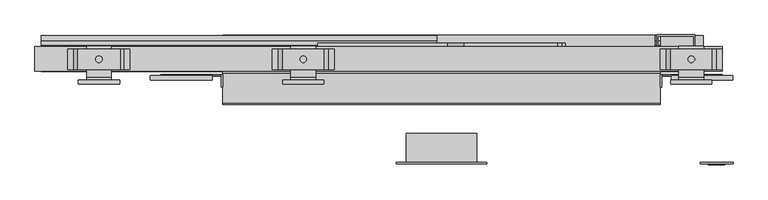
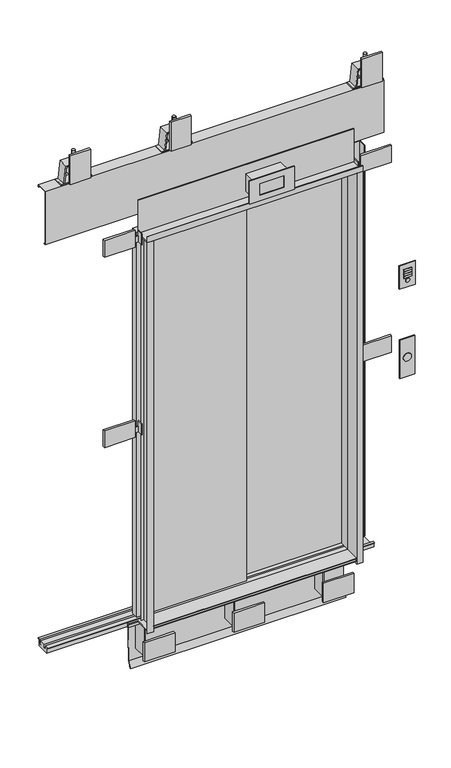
"""IFC4 building model written with IfcOpenShell, lengths in millimetres: proxy geometry, SHLZ_Дверь_0621Е_0411 : SHLZ_Дверь_0621Е_0411."""

from ifc_helpers import new_model, si_unit, point, frame, frame_2d, origin, origin_with_axes, place, context, project, spatial, polyline, circle_curve, trimmed, segment, composite_curve, outline, extrude, faceted_brep, source, transform, mapped, element, save
from ifc_brep_helpers import plane_surface, cylinder_surface, advanced_brep


def generic_models_df95d3e8(model_context):
    return source(origin(), model_context, "Body", "SolidModel", [
        extrude(outline(polyline([(-515.0, 20.0), (-500.0, 20.0), (-500.0, -60.0), (-530.0, -60.0), (-530.0, -57.0), (-503.0, -57.0), (-503.0, 17.0), (-515.0, 17.0), (-515.0, 20.0)])), frame((0.0, 0.0, -30.0), z_axis=(0.0, 0.0, 1.0), x_axis=(1.0, 0.0, 0.0)), (0.0, 0.0, 1.0), 2030.0),
        extrude(outline(polyline([(-57.0, 2030.0), (-57.0, 2003.0), (17.0, 2003.0), (17.0, 2175.0), (20.0, 2175.0), (20.0, 2000.0), (-60.0, 2000.0), (-60.0, 2030.0), (-57.0, 2030.0)])), frame((-530.0, 0.0, 0.0), z_axis=(1.0, 0.0, 0.0), x_axis=(0.0, 1.0, 0.0)), (0.0, 0.0, 1.0), 1060.0),
        extrude(outline(polyline([(706.3, -200.0), (706.3, -204.0), (626.3, -204.0), (626.3, -200.0), (706.3, -200.0)])), frame((0.0, 0.0, 1440.0), z_axis=(0.0, 0.0, 1.0), x_axis=(1.0, 0.0, 0.0)), (0.0, 0.0, 1.0), 120.0),
        extrude(outline(composite_curve([segment(trimmed(circle_curve(frame_2d((1476.0113201, 666.3)), 10.0), [point((1476.0113201, 676.3))], [point((1476.0113201, 656.3))], False, "CARTESIAN"), True, "CONTINUOUS"), segment(trimmed(circle_curve(frame_2d((1476.0113201, 666.3)), 10.0), [point((1476.0113201, 656.3))], [point((1476.0113201, 676.3))], False, "CARTESIAN"), True, "CONTINUOUS")], self_intersect=False)), frame((0.0, -206.0, 0.0), z_axis=(0.0, 1.0, 0.0), x_axis=(0.0, 0.0, 1.0)), (0.0, 0.0, 1.0), 2.0),
        extrude(outline(polyline([(686.3, -206.0), (646.3, -206.0), (646.3, -204.0), (686.3, -204.0), (686.3, -206.0)])), frame((0.0, 0.0, 1502.3637345), z_axis=(0.0, 0.0, 1.0), x_axis=(1.0, 0.0, 0.0)), (0.0, 0.0, 1.0), 10.0),
        extrude(outline(polyline([(686.3, -206.0), (646.3, -206.0), (646.3, -204.0), (686.3, -204.0), (686.3, -206.0)])), frame((0.0, 0.0, 1490.6113201), z_axis=(0.0, 0.0, 1.0), x_axis=(1.0, 0.0, 0.0)), (0.0, 0.0, 1.0), 10.0),
        extrude(outline(polyline([(686.3, -206.0), (646.3, -206.0), (646.3, -204.0), (686.3, -204.0), (686.3, -206.0)])), frame((0.0, 0.0, 1514.1161488), z_axis=(0.0, 0.0, 1.0), x_axis=(1.0, 0.0, 0.0)), (0.0, 0.0, 1.0), 10.0),
        extrude(outline(polyline([(686.3, -206.0), (646.3, -206.0), (646.3, -204.0), (686.3, -204.0), (686.3, -206.0)])), frame((0.0, 0.0, 1525.8685632), z_axis=(0.0, 0.0, 1.0), x_axis=(1.0, 0.0, 0.0)), (0.0, 0.0, 1.0), 10.0),
        extrude(outline(polyline([(703.5601691, -202.0), (629.0398309, -202.0), (629.0398309, -200.0), (703.5601691, -200.0), (703.5601691, -202.0)])), frame((0.0, 0.0, 975.0), z_axis=(0.0, 0.0, 1.0), x_axis=(1.0, 0.0, 0.0)), (0.0, 0.0, 1.0), 200.0),
        extrude(outline(composite_curve([segment(trimmed(circle_curve(frame_2d((1075.0, 666.3)), 20.0), [point((1075.0, 646.3))], [point((1075.0, 686.3))], False, "CARTESIAN"), True, "CONTINUOUS"), segment(trimmed(circle_curve(frame_2d((1075.0, 666.3)), 20.0), [point((1075.0, 686.3))], [point((1075.0, 646.3))], False, "CARTESIAN"), True, "CONTINUOUS")], self_intersect=False)), frame((0.0, -204.0226285, 0.0), z_axis=(0.0, 1.0, 0.0), x_axis=(0.0, 0.0, 1.0)), (0.0, 0.0, 1.0), 2.0226285),
        extrude(outline(polyline([(-706.0, 10.0), (-556.0, 10.0), (-556.0, 0.0), (-706.0, 0.0), (-706.0, 10.0)])), frame((0.0, 0.0, 1949.5), z_axis=(0.0, 0.0, 1.0), x_axis=(1.0, 0.0, 0.0)), (0.0, 0.0, 1.0), 87.0),
        faceted_brep([(-530.0, -17.0, 2021.5), (-533.0, -17.0, 2021.5), (-533.0, -17.0, 1964.5), (-530.0, -17.0, 1964.5), (-680.0, 13.0, 2021.5), (-560.0, 13.0, 2021.5), (-560.0, 13.0, 1994.5), (-533.0, 13.0, 1994.5), (-533.0, 13.0, 2021.5), (-530.0, 13.0, 2021.5), (-530.0, 13.0, 1964.5), (-680.0, 13.0, 1964.5), (-680.0, 10.0, 2021.5), (-560.0, 10.0, 2021.5), (-533.0, 10.0, 1964.5), (-680.0, 10.0, 1964.5), (-533.0, 10.0, 1994.5), (-560.0, 10.0, 1994.5)], [[[0, 1, 2, 3]], [[4, 5, 6, 7, 8, 9, 10, 11]], [[9, 8, 1, 0]], [[12, 13, 5, 4]], [[3, 10, 9, 0]], [[10, 3, 2, 14, 15, 11]], [[11, 15, 12, 4]], [[14, 16, 17, 13, 12, 15]], [[1, 8, 7, 16, 14, 2]], [[7, 6, 17, 16]], [[6, 5, 13, 17]]]),
        extrude(outline(polyline([(706.0, 10.0), (706.0, 0.0), (556.0, 0.0), (556.0, 10.0), (706.0, 10.0)])), frame((0.0, 0.0, 1949.5), z_axis=(0.0, 0.0, 1.0), x_axis=(1.0, 0.0, 0.0)), (0.0, 0.0, 1.0), 87.0),
        faceted_brep([(530.0, -17.0, 2021.5), (530.0, -17.0, 1964.5), (533.0, -17.0, 1964.5), (533.0, -17.0, 2021.5), (680.0, 13.0, 2021.5), (680.0, 13.0, 1964.5), (530.0, 13.0, 1964.5), (530.0, 13.0, 2021.5), (533.0, 13.0, 2021.5), (533.0, 13.0, 1994.5), (560.0, 13.0, 1994.5), (560.0, 13.0, 2021.5), (680.0, 10.0, 2021.5), (560.0, 10.0, 2021.5), (680.0, 10.0, 1964.5), (533.0, 10.0, 1964.5), (560.0, 10.0, 1994.5), (533.0, 10.0, 1994.5)], [[[0, 1, 2, 3]], [[4, 5, 6, 7, 8, 9, 10, 11]], [[12, 4, 11, 13]], [[7, 0, 3, 8]], [[1, 0, 7, 6]], [[6, 5, 14, 15, 2, 1]], [[5, 4, 12, 14]], [[15, 14, 12, 13, 16, 17]], [[3, 2, 15, 17, 9, 8]], [[9, 17, 16, 10]], [[10, 16, 13, 11]]]),
        extrude(outline(polyline([(-706.0, 10.0), (-556.0, 10.0), (-556.0, 0.0), (-706.0, 0.0), (-706.0, 10.0)])), frame((0.0, 0.0, 961.5), z_axis=(0.0, 0.0, 1.0), x_axis=(1.0, 0.0, 0.0)), (0.0, 0.0, 1.0), 87.0),
        faceted_brep([(-530.0, -17.0, 1033.5), (-533.0, -17.0, 1033.5), (-533.0, -17.0, 976.5), (-530.0, -17.0, 976.5), (-680.0, 13.0, 1033.5), (-560.0, 13.0, 1033.5), (-560.0, 13.0, 1006.5), (-533.0, 13.0, 1006.5), (-533.0, 13.0, 1033.5), (-530.0, 13.0, 1033.5), (-530.0, 13.0, 976.5), (-680.0, 13.0, 976.5), (-680.0, 10.0, 1033.5), (-560.0, 10.0, 1033.5), (-533.0, 10.0, 976.5), (-680.0, 10.0, 976.5), (-533.0, 10.0, 1006.5), (-560.0, 10.0, 1006.5)], [[[0, 1, 2, 3]], [[4, 5, 6, 7, 8, 9, 10, 11]], [[9, 8, 1, 0]], [[12, 13, 5, 4]], [[3, 10, 9, 0]], [[10, 3, 2, 14, 15, 11]], [[11, 15, 12, 4]], [[14, 16, 17, 13, 12, 15]], [[1, 8, 7, 16, 14, 2]], [[7, 6, 17, 16]], [[6, 5, 13, 17]]]),
        extrude(outline(polyline([(706.0, 10.0), (706.0, 0.0), (556.0, 0.0), (556.0, 10.0), (706.0, 10.0)])), frame((0.0, 0.0, 961.5), z_axis=(0.0, 0.0, 1.0), x_axis=(1.0, 0.0, 0.0)), (0.0, 0.0, 1.0), 87.0),
        faceted_brep([(530.0, -17.0, 1033.5), (530.0, -17.0, 976.5), (533.0, -17.0, 976.5), (533.0, -17.0, 1033.5), (680.0, 13.0, 1033.5), (680.0, 13.0, 976.5), (530.0, 13.0, 976.5), (530.0, 13.0, 1033.5), (533.0, 13.0, 1033.5), (533.0, 13.0, 1006.5), (560.0, 13.0, 1006.5), (560.0, 13.0, 1033.5), (680.0, 10.0, 1033.5), (560.0, 10.0, 1033.5), (680.0, 10.0, 976.5), (533.0, 10.0, 976.5), (560.0, 10.0, 1006.5), (533.0, 10.0, 1006.5)], [[[0, 1, 2, 3]], [[4, 5, 6, 7, 8, 9, 10, 11]], [[12, 4, 11, 13]], [[7, 0, 3, 8]], [[1, 0, 7, 6]], [[6, 5, 14, 15, 2, 1]], [[5, 4, 12, 14]], [[15, 14, 12, 13, 16, 17]], [[3, 2, 15, 17, 9, 8]], [[9, 17, 16, 10]], [[10, 16, 13, 11]]]),
        extrude(outline(polyline([(82.0, 2410.0), (0.0, 2410.0), (0.0, 2530.0), (5.0, 2530.0), (5.0, 2415.0), (82.0, 2415.0), (82.0, 2410.0)])), frame((-860.0, 0.0, 0.0), z_axis=(1.0, 0.0, 0.0), x_axis=(0.0, 1.0, 0.0)), (0.0, 0.0, 1.0), 60.0),
        extrude(outline(polyline([(-780.0, 0.0), (-780.0, -10.0), (-880.0, -10.0), (-880.0, 0.0), (-780.0, 0.0)])), frame((0.0, 0.0, 2394.0), z_axis=(0.0, 0.0, 1.0), x_axis=(1.0, 0.0, 0.0)), (0.0, 0.0, 1.0), 150.0),
        extrude(outline(polyline([(-755.0, 25.0), (-905.0, 25.0), (-905.0, 75.0), (-755.0, 75.0), (-755.0, 25.0)])), frame((0.0, 0.0, 2375.0), z_axis=(0.0, 0.0, 1.0), x_axis=(1.0, 0.0, 0.0)), (0.0, 0.0, 1.0), 5.0),
        advanced_brep(
        [(-838.0, 50.0, 2410.0), (-822.0, 50.0, 2410.0), (-838.0, 50.0, 2385.0), (-822.0, 50.0, 2385.0)],
        [
            (0, 1, circle_curve(frame((-830.0, 50.0, 2410.0), z_axis=(0.0, 0.0, 1.0), x_axis=(1.0, 0.0, 0.0)), 8.0)),
            (1, 0, circle_curve(frame((-830.0, 50.0, 2410.0), z_axis=(0.0, 0.0, 1.0), x_axis=(1.0, 0.0, 0.0)), 8.0)),
            (2, 3, circle_curve(frame((-830.0, 50.0, 2385.0), z_axis=(0.0, 0.0, -1.0), x_axis=(1.0, 0.0, 0.0)), 8.0)),
            (3, 2, circle_curve(frame((-830.0, 50.0, 2385.0), z_axis=(0.0, 0.0, -1.0), x_axis=(1.0, 0.0, 0.0)), 8.0)),
            (3, 1),
            (0, 2),
        ],
        [
            plane_surface(frame((-800.0, 0.0, 2410.0), z_axis=(0.0, 0.0, 1.0), x_axis=(-1.0, 0.0, 0.0))),
            plane_surface(frame((-822.0, 50.0, 2385.0), z_axis=(0.0, 0.0, -1.0), x_axis=(0.0, -1.0, 0.0))),
            cylinder_surface(frame((-830.0, 50.0, 2385.0), z_axis=(0.0, 0.0, 1.0), x_axis=(1.0, 0.0, 0.0)), 8.0),
        ],
        [
            (0, [[1, 2]]),
            (1, [[3, 4]]),
            (2, [[-4, 5, -1, 6]]),
            (2, [[-3, -6, -2, -5]]),
        ],
    ),
        advanced_brep(
        [(-876.7, 25.0, 2465.0), (-886.0, 25.0, 2380.0), (-886.0, 75.0, 2380.0), (-876.7, 75.0, 2465.0), (-891.0, 75.0, 2380.0), (-881.1529412, 75.0, 2470.0), (-778.8470588, 75.0, 2470.0), (-769.0, 75.0, 2380.0), (-774.0, 75.0, 2380.0), (-783.3, 75.0, 2465.0), (-838.0, 50.0, 2521.0), (-822.0, 50.0, 2521.0), (-838.0, 50.0, 2470.0), (-822.0, 50.0, 2470.0), (-783.3, 25.0, 2465.0), (-774.0, 25.0, 2380.0), (-769.0, 25.0, 2380.0), (-778.8470588, 25.0, 2470.0), (-881.1529412, 25.0, 2470.0), (-891.0, 25.0, 2380.0), (-838.0, 50.0, 2465.0), (-822.0, 50.0, 2465.0), (-822.0, 50.0, 2415.0), (-838.0, 50.0, 2415.0)],
        [
            (0, 1),
            (1, 2),
            (2, 3),
            (3, 0),
            (2, 4),
            (4, 5),
            (5, 6),
            (6, 7),
            (7, 8),
            (8, 9),
            (9, 3),
            (10, 11, circle_curve(frame((-830.0, 50.0, 2521.0), z_axis=(0.0, 0.0, 1.0), x_axis=(1.0, 0.0, 0.0)), 8.0)),
            (11, 10, circle_curve(frame((-830.0, 50.0, 2521.0), z_axis=(0.0, 0.0, 1.0), x_axis=(1.0, 0.0, 0.0)), 8.0)),
            (10, 12),
            (12, 13, circle_curve(frame((-830.0, 50.0, 2470.0), z_axis=(0.0, 0.0, 1.0), x_axis=(1.0, 0.0, 0.0)), 8.0)),
            (13, 11),
            (13, 12, circle_curve(frame((-830.0, 50.0, 2470.0), z_axis=(0.0, 0.0, 1.0), x_axis=(1.0, 0.0, 0.0)), 8.0)),
            (0, 14),
            (14, 15),
            (15, 16),
            (16, 17),
            (17, 18),
            (18, 19),
            (19, 1),
            (9, 14),
            (20, 21, circle_curve(frame((-830.0, 50.0, 2465.0), z_axis=(0.0, 0.0, 1.0), x_axis=(1.0, 0.0, 0.0)), 8.0)),
            (21, 20, circle_curve(frame((-830.0, 50.0, 2465.0), z_axis=(0.0, 0.0, 1.0), x_axis=(1.0, 0.0, 0.0)), 8.0)),
            (8, 15),
            (7, 16),
            (6, 17),
            (5, 18),
            (4, 19),
            (22, 23, circle_curve(frame((-830.0, 50.0, 2415.0), z_axis=(0.0, 0.0, -1.0), x_axis=(1.0, 0.0, 0.0)), 8.0)),
            (23, 22, circle_curve(frame((-830.0, 50.0, 2415.0), z_axis=(0.0, 0.0, -1.0), x_axis=(1.0, 0.0, 0.0)), 8.0)),
            (20, 23),
            (22, 21),
        ],
        [
            plane_surface(frame((-886.0, 25.0, 2380.0), z_axis=(0.9940677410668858, 0.0, -0.10876270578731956), x_axis=(0.0, 1.0, 0.0))),
            plane_surface(frame((-876.7, 75.0, 2465.0), z_axis=(0.0, 1.0, 0.0), x_axis=(-1.0, 0.0, 0.0))),
            plane_surface(frame((-822.0, 50.0, 2521.0), z_axis=(0.0, 0.0, 1.0), x_axis=(0.0, 1.0, 0.0))),
            cylinder_surface(frame((-830.0, 50.0, 2385.0), z_axis=(0.0, 0.0, 1.0), x_axis=(1.0, 0.0, 0.0)), 8.0),
            plane_surface(frame((-876.7, 25.0, 2465.0), z_axis=(0.0, -1.0, 0.0), x_axis=(1.0, 0.0, 0.0))),
            plane_surface(frame((-876.7, 25.0, 2465.0), z_axis=(0.0, 0.0, -1.0), x_axis=(0.0, 1.0, 0.0))),
            plane_surface(frame((-783.3, 25.0, 2465.0), z_axis=(-0.9940677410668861, 0.0, -0.1087627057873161), x_axis=(0.0, 1.0, 0.0))),
            plane_surface(frame((-774.0, 25.0, 2380.0), z_axis=(0.0, 0.0, -1.0), x_axis=(0.0, 1.0, 0.0))),
            plane_surface(frame((-769.0, 25.0, 2380.0), z_axis=(0.9940677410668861, 0.0, 0.10876270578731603), x_axis=(0.0, 1.0, 0.0))),
            plane_surface(frame((-778.8470588, 25.0, 2470.0), z_axis=(0.0, 0.0, 1.0), x_axis=(0.0, 1.0, 0.0))),
            plane_surface(frame((-881.1529412, 25.0, 2470.0), z_axis=(-0.9940677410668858, 0.0, 0.10876270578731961), x_axis=(0.0, 1.0, 0.0))),
            plane_surface(frame((-891.0, 25.0, 2380.0), z_axis=(0.0, 0.0, -1.0), x_axis=(0.0, 1.0, 0.0))),
            plane_surface(frame((-800.0, 82.0, 2415.0), z_axis=(0.0, 0.0, -1.0), x_axis=(-1.0, 0.0, 0.0))),
        ],
        [
            (0, [[1, 2, 3, 4]]),
            (1, [[-3, 5, 6, 7, 8, 9, 10, 11]]),
            (2, [[12, 13]]),
            (3, [[-12, 14, 15, 16]]),
            (3, [[-13, -16, 17, -14]]),
            (4, [[18, 19, 20, 21, 22, 23, 24, -1]]),
            (5, [[-18, -4, -11, 25], [26, 27]]),
            (6, [[-19, -25, -10, 28]]),
            (7, [[-20, -28, -9, 29]]),
            (8, [[-21, -29, -8, 30]]),
            (9, [[-22, -30, -7, 31], [-15, -17]]),
            (10, [[-23, -31, -6, 32]]),
            (11, [[-24, -32, -5, -2]]),
            (12, [[33, 34]]),
            (3, [[-26, 35, -33, 36]]),
            (3, [[-27, -36, -34, -35]]),
        ],
    ),
        extrude(outline(polyline([(82.0, 2410.0), (0.0, 2410.0), (0.0, 2530.0), (5.0, 2530.0), (5.0, 2415.0), (82.0, 2415.0), (82.0, 2410.0)])), frame((-365.0, 0.0, 0.0), z_axis=(1.0, 0.0, 0.0), x_axis=(0.0, 1.0, 0.0)), (0.0, 0.0, 1.0), 60.0),
        extrude(outline(polyline([(-285.0, 0.0), (-285.0, -10.0), (-385.0, -10.0), (-385.0, 0.0), (-285.0, 0.0)])), frame((0.0, 0.0, 2394.0), z_axis=(0.0, 0.0, 1.0), x_axis=(1.0, 0.0, 0.0)), (0.0, 0.0, 1.0), 150.0),
        extrude(outline(polyline([(-260.0, 25.0), (-410.0, 25.0), (-410.0, 75.0), (-260.0, 75.0), (-260.0, 25.0)])), frame((0.0, 0.0, 2375.0), z_axis=(0.0, 0.0, 1.0), x_axis=(1.0, 0.0, 0.0)), (0.0, 0.0, 1.0), 5.0),
        advanced_brep(
        [(-343.0, 50.0, 2410.0), (-327.0, 50.0, 2410.0), (-343.0, 50.0, 2385.0), (-327.0, 50.0, 2385.0)],
        [
            (0, 1, circle_curve(frame((-335.0, 50.0, 2410.0), z_axis=(0.0, 0.0, 1.0), x_axis=(1.0, 0.0, 0.0)), 8.0)),
            (1, 0, circle_curve(frame((-335.0, 50.0, 2410.0), z_axis=(0.0, 0.0, 1.0), x_axis=(1.0, 0.0, 0.0)), 8.0)),
            (2, 3, circle_curve(frame((-335.0, 50.0, 2385.0), z_axis=(0.0, 0.0, -1.0), x_axis=(1.0, 0.0, 0.0)), 8.0)),
            (3, 2, circle_curve(frame((-335.0, 50.0, 2385.0), z_axis=(0.0, 0.0, -1.0), x_axis=(1.0, 0.0, 0.0)), 8.0)),
            (3, 1),
            (0, 2),
        ],
        [
            plane_surface(frame((-305.0, 0.0, 2410.0), z_axis=(0.0, 0.0, 1.0), x_axis=(-1.0, 0.0, 0.0))),
            plane_surface(frame((-327.0, 50.0, 2385.0), z_axis=(0.0, 0.0, -1.0), x_axis=(0.0, -1.0, 0.0))),
            cylinder_surface(frame((-335.0, 50.0, 2385.0), z_axis=(0.0, 0.0, 1.0), x_axis=(1.0, 0.0, 0.0)), 8.0),
        ],
        [
            (0, [[1, 2]]),
            (1, [[3, 4]]),
            (2, [[-4, 5, -1, 6]]),
            (2, [[-3, -6, -2, -5]]),
        ],
    ),
        advanced_brep(
        [(-381.7, 25.0, 2465.0), (-391.0, 25.0, 2380.0), (-391.0, 75.0, 2380.0), (-381.7, 75.0, 2465.0), (-396.0, 75.0, 2380.0), (-386.1529412, 75.0, 2470.0), (-283.8470588, 75.0, 2470.0), (-274.0, 75.0, 2380.0), (-279.0, 75.0, 2380.0), (-288.3, 75.0, 2465.0), (-343.0, 50.0, 2521.0), (-327.0, 50.0, 2521.0), (-343.0, 50.0, 2470.0), (-327.0, 50.0, 2470.0), (-288.3, 25.0, 2465.0), (-279.0, 25.0, 2380.0), (-274.0, 25.0, 2380.0), (-283.8470588, 25.0, 2470.0), (-386.1529412, 25.0, 2470.0), (-396.0, 25.0, 2380.0), (-343.0, 50.0, 2465.0), (-327.0, 50.0, 2465.0), (-327.0, 50.0, 2415.0), (-343.0, 50.0, 2415.0)],
        [
            (0, 1),
            (1, 2),
            (2, 3),
            (3, 0),
            (2, 4),
            (4, 5),
            (5, 6),
            (6, 7),
            (7, 8),
            (8, 9),
            (9, 3),
            (10, 11, circle_curve(frame((-335.0, 50.0, 2521.0), z_axis=(0.0, 0.0, 1.0), x_axis=(1.0, 0.0, 0.0)), 8.0)),
            (11, 10, circle_curve(frame((-335.0, 50.0, 2521.0), z_axis=(0.0, 0.0, 1.0), x_axis=(1.0, 0.0, 0.0)), 8.0)),
            (10, 12),
            (12, 13, circle_curve(frame((-335.0, 50.0, 2470.0), z_axis=(0.0, 0.0, 1.0), x_axis=(1.0, 0.0, 0.0)), 8.0)),
            (13, 11),
            (13, 12, circle_curve(frame((-335.0, 50.0, 2470.0), z_axis=(0.0, 0.0, 1.0), x_axis=(1.0, 0.0, 0.0)), 8.0)),
            (0, 14),
            (14, 15),
            (15, 16),
            (16, 17),
            (17, 18),
            (18, 19),
            (19, 1),
            (9, 14),
            (20, 21, circle_curve(frame((-335.0, 50.0, 2465.0), z_axis=(0.0, 0.0, 1.0), x_axis=(1.0, 0.0, 0.0)), 8.0)),
            (21, 20, circle_curve(frame((-335.0, 50.0, 2465.0), z_axis=(0.0, 0.0, 1.0), x_axis=(1.0, 0.0, 0.0)), 8.0)),
            (8, 15),
            (7, 16),
            (6, 17),
            (5, 18),
            (4, 19),
            (22, 23, circle_curve(frame((-335.0, 50.0, 2415.0), z_axis=(0.0, 0.0, -1.0), x_axis=(1.0, 0.0, 0.0)), 8.0)),
            (23, 22, circle_curve(frame((-335.0, 50.0, 2415.0), z_axis=(0.0, 0.0, -1.0), x_axis=(1.0, 0.0, 0.0)), 8.0)),
            (20, 23),
            (22, 21),
        ],
        [
            plane_surface(frame((-391.0, 25.0, 2380.0), z_axis=(0.9940677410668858, 0.0, -0.10876270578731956), x_axis=(0.0, 1.0, 0.0))),
            plane_surface(frame((-381.7, 75.0, 2465.0), z_axis=(0.0, 1.0, 0.0), x_axis=(-1.0, 0.0, 0.0))),
            plane_surface(frame((-327.0, 50.0, 2521.0), z_axis=(0.0, 0.0, 1.0), x_axis=(0.0, 1.0, 0.0))),
            cylinder_surface(frame((-335.0, 50.0, 2385.0), z_axis=(0.0, 0.0, 1.0), x_axis=(1.0, 0.0, 0.0)), 8.0),
            plane_surface(frame((-381.7, 25.0, 2465.0), z_axis=(0.0, -1.0, 0.0), x_axis=(1.0, 0.0, 0.0))),
            plane_surface(frame((-381.7, 25.0, 2465.0), z_axis=(0.0, 0.0, -1.0), x_axis=(0.0, 1.0, 0.0))),
            plane_surface(frame((-288.3, 25.0, 2465.0), z_axis=(-0.9940677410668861, 0.0, -0.1087627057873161), x_axis=(0.0, 1.0, 0.0))),
            plane_surface(frame((-279.0, 25.0, 2380.0), z_axis=(0.0, 0.0, -1.0), x_axis=(0.0, 1.0, 0.0))),
            plane_surface(frame((-274.0, 25.0, 2380.0), z_axis=(0.9940677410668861, 0.0, 0.10876270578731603), x_axis=(0.0, 1.0, 0.0))),
            plane_surface(frame((-283.8470588, 25.0, 2470.0), z_axis=(0.0, 0.0, 1.0), x_axis=(0.0, 1.0, 0.0))),
            plane_surface(frame((-386.1529412, 25.0, 2470.0), z_axis=(-0.9940677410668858, 0.0, 0.10876270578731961), x_axis=(0.0, 1.0, 0.0))),
            plane_surface(frame((-396.0, 25.0, 2380.0), z_axis=(0.0, 0.0, -1.0), x_axis=(0.0, 1.0, 0.0))),
            plane_surface(frame((-305.0, 82.0, 2415.0), z_axis=(0.0, 0.0, -1.0), x_axis=(-1.0, 0.0, 0.0))),
        ],
        [
            (0, [[1, 2, 3, 4]]),
            (1, [[-3, 5, 6, 7, 8, 9, 10, 11]]),
            (2, [[12, 13]]),
            (3, [[-12, 14, 15, 16]]),
            (3, [[-13, -16, 17, -14]]),
            (4, [[18, 19, 20, 21, 22, 23, 24, -1]]),
            (5, [[-18, -4, -11, 25], [26, 27]]),
            (6, [[-19, -25, -10, 28]]),
            (7, [[-20, -28, -9, 29]]),
            (8, [[-21, -29, -8, 30]]),
            (9, [[-22, -30, -7, 31], [-15, -17]]),
            (10, [[-23, -31, -6, 32]]),
            (11, [[-24, -32, -5, -2]]),
            (12, [[33, 34]]),
            (3, [[-26, 35, -33, 36]]),
            (3, [[-27, -36, -34, -35]]),
        ],
    ),
        extrude(outline(polyline([(82.0, 2410.0), (0.0, 2410.0), (0.0, 2530.0), (5.0, 2530.0), (5.0, 2415.0), (82.0, 2415.0), (82.0, 2410.0)])), frame((575.0, 0.0, 0.0), z_axis=(1.0, 0.0, 0.0), x_axis=(0.0, 1.0, 0.0)), (0.0, 0.0, 1.0), 60.0),
        extrude(outline(polyline([(655.0, 0.0), (655.0, -10.0), (555.0, -10.0), (555.0, 0.0), (655.0, 0.0)])), frame((0.0, 0.0, 2394.0), z_axis=(0.0, 0.0, 1.0), x_axis=(1.0, 0.0, 0.0)), (0.0, 0.0, 1.0), 150.0),
        extrude(outline(polyline([(680.0, 25.0), (530.0, 25.0), (530.0, 75.0), (680.0, 75.0), (680.0, 25.0)])), frame((0.0, 0.0, 2375.0), z_axis=(0.0, 0.0, 1.0), x_axis=(1.0, 0.0, 0.0)), (0.0, 0.0, 1.0), 5.0),
        advanced_brep(
        [(597.0, 50.0, 2410.0), (613.0, 50.0, 2410.0), (597.0, 50.0, 2385.0), (613.0, 50.0, 2385.0)],
        [
            (0, 1, circle_curve(frame((605.0, 50.0, 2410.0), z_axis=(0.0, 0.0, 1.0), x_axis=(1.0, 0.0, 0.0)), 8.0)),
            (1, 0, circle_curve(frame((605.0, 50.0, 2410.0), z_axis=(0.0, 0.0, 1.0), x_axis=(1.0, 0.0, 0.0)), 8.0)),
            (2, 3, circle_curve(frame((605.0, 50.0, 2385.0), z_axis=(0.0, 0.0, -1.0), x_axis=(1.0, 0.0, 0.0)), 8.0)),
            (3, 2, circle_curve(frame((605.0, 50.0, 2385.0), z_axis=(0.0, 0.0, -1.0), x_axis=(1.0, 0.0, 0.0)), 8.0)),
            (3, 1),
            (0, 2),
        ],
        [
            plane_surface(frame((635.0, 0.0, 2410.0), z_axis=(0.0, 0.0, 1.0), x_axis=(-1.0, 0.0, 0.0))),
            plane_surface(frame((613.0, 50.0, 2385.0), z_axis=(0.0, 0.0, -1.0), x_axis=(0.0, -1.0, 0.0))),
            cylinder_surface(frame((605.0, 50.0, 2385.0), z_axis=(0.0, 0.0, 1.0), x_axis=(1.0, 0.0, 0.0)), 8.0),
        ],
        [
            (0, [[1, 2]]),
            (1, [[3, 4]]),
            (2, [[-4, 5, -1, 6]]),
            (2, [[-3, -6, -2, -5]]),
        ],
    ),
        advanced_brep(
        [(558.3, 25.0, 2465.0), (549.0, 25.0, 2380.0), (549.0, 75.0, 2380.0), (558.3, 75.0, 2465.0), (544.0, 75.0, 2380.0), (553.8470588, 75.0, 2470.0), (656.1529412, 75.0, 2470.0), (666.0, 75.0, 2380.0), (661.0, 75.0, 2380.0), (651.7, 75.0, 2465.0), (597.0, 50.0, 2521.0), (613.0, 50.0, 2521.0), (597.0, 50.0, 2470.0), (613.0, 50.0, 2470.0), (651.7, 25.0, 2465.0), (661.0, 25.0, 2380.0), (666.0, 25.0, 2380.0), (656.1529412, 25.0, 2470.0), (553.8470588, 25.0, 2470.0), (544.0, 25.0, 2380.0), (597.0, 50.0, 2465.0), (613.0, 50.0, 2465.0), (613.0, 50.0, 2415.0), (597.0, 50.0, 2415.0)],
        [
            (0, 1),
            (1, 2),
            (2, 3),
            (3, 0),
            (2, 4),
            (4, 5),
            (5, 6),
            (6, 7),
            (7, 8),
            (8, 9),
            (9, 3),
            (10, 11, circle_curve(frame((605.0, 50.0, 2521.0), z_axis=(0.0, 0.0, 1.0), x_axis=(1.0, 0.0, 0.0)), 8.0)),
            (11, 10, circle_curve(frame((605.0, 50.0, 2521.0), z_axis=(0.0, 0.0, 1.0), x_axis=(1.0, 0.0, 0.0)), 8.0)),
            (10, 12),
            (12, 13, circle_curve(frame((605.0, 50.0, 2470.0), z_axis=(0.0, 0.0, 1.0), x_axis=(1.0, 0.0, 0.0)), 8.0)),
            (13, 11),
            (13, 12, circle_curve(frame((605.0, 50.0, 2470.0), z_axis=(0.0, 0.0, 1.0), x_axis=(1.0, 0.0, 0.0)), 8.0)),
            (0, 14),
            (14, 15),
            (15, 16),
            (16, 17),
            (17, 18),
            (18, 19),
            (19, 1),
            (9, 14),
            (20, 21, circle_curve(frame((605.0, 50.0, 2465.0), z_axis=(0.0, 0.0, 1.0), x_axis=(1.0, 0.0, 0.0)), 8.0)),
            (21, 20, circle_curve(frame((605.0, 50.0, 2465.0), z_axis=(0.0, 0.0, 1.0), x_axis=(1.0, 0.0, 0.0)), 8.0)),
            (8, 15),
            (7, 16),
            (6, 17),
            (5, 18),
            (4, 19),
            (22, 23, circle_curve(frame((605.0, 50.0, 2415.0), z_axis=(0.0, 0.0, -1.0), x_axis=(1.0, 0.0, 0.0)), 8.0)),
            (23, 22, circle_curve(frame((605.0, 50.0, 2415.0), z_axis=(0.0, 0.0, -1.0), x_axis=(1.0, 0.0, 0.0)), 8.0)),
            (20, 23),
            (22, 21),
        ],
        [
            plane_surface(frame((549.0, 25.0, 2380.0), z_axis=(0.9940677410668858, 0.0, -0.10876270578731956), x_axis=(0.0, 1.0, 0.0))),
            plane_surface(frame((558.3, 75.0, 2465.0), z_axis=(0.0, 1.0, 0.0), x_axis=(-1.0, 0.0, 0.0))),
            plane_surface(frame((613.0, 50.0, 2521.0), z_axis=(0.0, 0.0, 1.0), x_axis=(0.0, 1.0, 0.0))),
            cylinder_surface(frame((605.0, 50.0, 2385.0), z_axis=(0.0, 0.0, 1.0), x_axis=(1.0, 0.0, 0.0)), 8.0),
            plane_surface(frame((558.3, 25.0, 2465.0), z_axis=(0.0, -1.0, 0.0), x_axis=(1.0, 0.0, 0.0))),
            plane_surface(frame((558.3, 25.0, 2465.0), z_axis=(0.0, 0.0, -1.0), x_axis=(0.0, 1.0, 0.0))),
            plane_surface(frame((651.7, 25.0, 2465.0), z_axis=(-0.9940677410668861, 0.0, -0.1087627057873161), x_axis=(0.0, 1.0, 0.0))),
            plane_surface(frame((661.0, 25.0, 2380.0), z_axis=(0.0, 0.0, -1.0), x_axis=(0.0, 1.0, 0.0))),
            plane_surface(frame((666.0, 25.0, 2380.0), z_axis=(0.9940677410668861, 0.0, 0.10876270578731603), x_axis=(0.0, 1.0, 0.0))),
            plane_surface(frame((656.1529412, 25.0, 2470.0), z_axis=(0.0, 0.0, 1.0), x_axis=(0.0, 1.0, 0.0))),
            plane_surface(frame((553.8470588, 25.0, 2470.0), z_axis=(-0.9940677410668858, 0.0, 0.10876270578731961), x_axis=(0.0, 1.0, 0.0))),
            plane_surface(frame((544.0, 25.0, 2380.0), z_axis=(0.0, 0.0, -1.0), x_axis=(0.0, 1.0, 0.0))),
            plane_surface(frame((635.0, 82.0, 2415.0), z_axis=(0.0, 0.0, -1.0), x_axis=(-1.0, 0.0, 0.0))),
        ],
        [
            (0, [[1, 2, 3, 4]]),
            (1, [[-3, 5, 6, 7, 8, 9, 10, 11]]),
            (2, [[12, 13]]),
            (3, [[-12, 14, 15, 16]]),
            (3, [[-13, -16, 17, -14]]),
            (4, [[18, 19, 20, 21, 22, 23, 24, -1]]),
            (5, [[-18, -4, -11, 25], [26, 27]]),
            (6, [[-19, -25, -10, 28]]),
            (7, [[-20, -28, -9, 29]]),
            (8, [[-21, -29, -8, 30]]),
            (9, [[-22, -30, -7, 31], [-15, -17]]),
            (10, [[-23, -31, -6, 32]]),
            (11, [[-24, -32, -5, -2]]),
            (12, [[33, 34]]),
            (3, [[-26, 35, -33, 36]]),
            (3, [[-27, -36, -34, -35]]),
        ],
    ),
        faceted_brep([(280.0, 88.6, 2315.9), (55.4145188, 88.6, 2315.9), (55.4145188, 26.1, 2315.9), (280.0, 26.1, 2315.9), (300.0, 26.1, 2070.9), (-300.0, 26.1, 2070.9), (-300.0, 88.6, 2070.9), (300.0, 88.6, 2070.9), (300.0, 88.6, 2245.9), (300.0, 26.1, 2245.9), (300.0, 26.1, 2203.7582474), (300.0, 58.6, 2203.7582474), (300.0, 58.6, 2155.010593), (300.0, 26.1, 2155.010593), (-300.0, 88.6, 2245.9), (15.0, 88.6, 2245.9), (292.3428886, 88.6, 2245.9), (-300.0, 26.1, 2155.010593), (-300.0, 58.6, 2155.010593), (-300.0, 58.6, 2203.7582474), (-300.0, 26.1, 2203.7582474), (-300.0, 26.1, 2245.9), (15.0, 26.1, 2245.9), (292.3428886, 26.1, 2245.9)], [[[0, 1, 2, 3]], [[4, 5, 6, 7]], [[4, 7, 8, 9, 10, 11, 12, 13]], [[7, 6, 14, 15, 1, 0, 16, 8]], [[6, 5, 17, 18, 19, 20, 21, 14]], [[3, 2, 22, 21, 20, 10, 9, 23]], [[5, 4, 13, 17]], [[15, 22, 2, 1]], [[22, 15, 14, 21]], [[16, 23, 9, 8]], [[23, 16, 0, 3]], [[12, 18, 17, 13]], [[18, 12, 11, 19]], [[19, 11, 10, 20]]]),
        extrude(outline(polyline([(600.0, 50.0), (600.0, 40.0), (-930.0, 40.0), (-930.0, 50.0), (600.0, 50.0)])), frame((0.0, 0.0, 2158.0), z_axis=(0.0, 0.0, 1.0), x_axis=(1.0, 0.0, 0.0)), (0.0, 0.0, 1.0), 40.0),
        extrude(outline(polyline([(31.1, 2102.0), (31.1, 2100.0), (21.1, 2100.0), (21.1, 2375.0), (80.1, 2375.0), (80.1, 2365.0), (78.1, 2365.0), (78.1, 2373.0), (23.1, 2373.0), (23.1, 2102.0), (31.1, 2102.0)])), frame((-985.0, 0.0, 0.0), z_axis=(1.0, 0.0, 0.0), x_axis=(0.0, 1.0, 0.0)), (0.0, 0.0, 1.0), 1665.0),
        extrude(outline(polyline([(516.0, 108.0), (516.0, 72.0), (-10.0, 72.0), (-10.0, 108.0), (516.0, 108.0)])), origin_with_axes(), (0.0, 0.0, 1.0), 2000.0),
        extrude(outline(polyline([(10.0, 66.3), (10.0, 30.3), (-530.0, 30.3), (-530.0, 66.3), (10.0, 66.3)])), origin_with_axes(), (0.0, 0.0, 1.0), 2000.0),
        extrude(outline(polyline([(500.0, 20.0), (500.0, 66.3), (521.0, 66.3), (521.0, 109.3), (614.0, 109.3), (614.0, 66.3), (611.0, 66.3), (611.0, 106.3), (524.0, 106.3), (524.0, 63.3), (503.0, 63.3), (503.0, 23.0), (530.0, 23.0), (530.0, 20.0), (500.0, 20.0)])), origin_with_axes(), (0.0, 0.0, 1.0), 2030.0),
        extrude(outline(polyline([(-43.0, 454.0), (-38.0, 454.0), (-38.0, 374.0), (-198.0, 374.0), (-198.0, 379.0), (-43.0, 379.0), (-43.0, 454.0)])), frame((0.0, 9.5536677, 0.0), z_axis=(0.0, 1.0, 0.0), x_axis=(0.0, 0.0, 1.0)), (0.0, 0.0, 1.0), 70.0),
        extrude(outline(polyline([(499.0, 0.0), (379.0, 0.0), (379.0, 82.0), (384.0, 82.0), (384.0, 5.0), (499.0, 5.0), (499.0, 0.0)])), frame((0.0, 0.0, -188.0), z_axis=(0.0, 0.0, 1.0), x_axis=(1.0, 0.0, 0.0)), (0.0, 0.0, 1.0), 50.0),
        extrude(outline(polyline([(365.0, 0.0), (515.0, 0.0), (515.0, -10.0), (365.0, -10.0), (365.0, 0.0)])), frame((0.0, 0.0, -213.0), z_axis=(0.0, 0.0, 1.0), x_axis=(1.0, 0.0, 0.0)), (0.0, 0.0, 1.0), 100.0),
        extrude(outline(polyline([(-43.0, 14.0), (-38.0, 14.0), (-38.0, -66.0), (-198.0, -66.0), (-198.0, -61.0), (-43.0, -61.0), (-43.0, 14.0)])), frame((0.0, 9.5536677, 0.0), z_axis=(0.0, 1.0, 0.0), x_axis=(0.0, 0.0, 1.0)), (0.0, 0.0, 1.0), 70.0),
        extrude(outline(polyline([(59.0, 0.0), (-61.0, 0.0), (-61.0, 82.0), (-56.0, 82.0), (-56.0, 5.0), (59.0, 5.0), (59.0, 0.0)])), frame((0.0, 0.0, -188.0), z_axis=(0.0, 0.0, 1.0), x_axis=(1.0, 0.0, 0.0)), (0.0, 0.0, 1.0), 50.0),
        extrude(outline(polyline([(-75.0, 0.0), (75.0, 0.0), (75.0, -10.0), (-75.0, -10.0), (-75.0, 0.0)])), frame((0.0, 0.0, -213.0), z_axis=(0.0, 0.0, 1.0), x_axis=(1.0, 0.0, 0.0)), (0.0, 0.0, 1.0), 100.0),
        extrude(outline(polyline([(-43.0, -426.0), (-38.0, -426.0), (-38.0, -506.0), (-198.0, -506.0), (-198.0, -501.0), (-43.0, -501.0), (-43.0, -426.0)])), frame((0.0, 9.5536677, 0.0), z_axis=(0.0, 1.0, 0.0), x_axis=(0.0, 0.0, 1.0)), (0.0, 0.0, 1.0), 70.0),
        extrude(outline(polyline([(-381.0, 0.0), (-501.0, 0.0), (-501.0, 82.0), (-496.0, 82.0), (-496.0, 5.0), (-381.0, 5.0), (-381.0, 0.0)])), frame((0.0, 0.0, -188.0), z_axis=(0.0, 0.0, 1.0), x_axis=(1.0, 0.0, 0.0)), (0.0, 0.0, 1.0), 50.0),
        extrude(outline(polyline([(-515.0, 0.0), (-365.0, 0.0), (-365.0, -10.0), (-515.0, -10.0), (-515.0, 0.0)])), frame((0.0, 0.0, -213.0), z_axis=(0.0, 0.0, 1.0), x_axis=(1.0, 0.0, 0.0)), (0.0, 0.0, 1.0), 100.0),
        extrude(outline(polyline([(20.0, -3.0), (20.0, 0.0), (42.3, 0.0), (42.3, -20.0), (54.3, -20.0), (54.3, 0.0), (84.0, 0.0), (84.0, -20.0), (96.0, -20.0), (96.0, 0.0), (108.0, 0.0), (108.0, -3.0), (98.5, -3.0), (98.5, -35.0), (34.5, -35.0), (34.5, -3.0), (20.0, -3.0)])), frame((-970.0, 0.0, 0.0), z_axis=(1.0, 0.0, 0.0), x_axis=(0.0, 1.0, 0.0)), (0.0, 0.0, 1.0), 1500.0),
        faceted_brep([(634.0, 27.0, -16.0), (634.0, 27.0, -38.0), (634.0, 104.2, -38.0), (634.0, 104.2, -39.4535449), (634.0, 102.7840866, -80.0), (634.0, 105.6805978, -80.0), (634.0, 107.2, -36.4900133), (634.0, 107.2, -35.0), (634.0, 30.0, -35.0), (634.0, 30.0, -13.0), (634.0, 20.0, -13.0), (634.0, 20.0, -16.0), (-574.0, 30.0, -13.0), (-574.0, 30.0, -35.0), (-574.0, 107.2, -35.0), (-574.0, 107.2, -36.4900133), (-574.0, 105.6805978, -80.0), (-574.0, 102.7840866, -80.0), (-574.0, 104.2, -39.4535449), (-574.0, 104.2, -38.0), (-574.0, 27.0, -38.0), (-574.0, 27.0, -16.0), (-574.0, 20.0, -16.0), (-574.0, 20.0, -13.0), (-530.0, -60.0, -13.0), (-530.0, -60.0, -16.0), (500.0, -60.0, -16.0), (500.0, -60.0, -13.0), (530.0, 20.0, -16.0), (530.0, -57.0, -16.0), (503.0, -57.0, -16.0), (503.0, 17.0, -16.0), (515.0, 17.0, -16.0), (515.0, 20.0, -16.0), (500.0, 20.0, -16.0), (-530.0, 20.0, -16.0), (-530.0, 20.0, -13.0), (500.0, 20.0, -13.0), (515.0, 20.0, -13.0), (515.0, 17.0, -13.0), (503.0, 17.0, -13.0), (503.0, -57.0, -13.0), (530.0, -57.0, -13.0), (530.0, 20.0, -13.0)], [[[0, 1, 2, 3, 4, 5, 6, 7, 8, 9, 10, 11]], [[12, 13, 14, 15, 16, 17, 18, 19, 20, 21, 22, 23]], [[24, 25, 26, 27]], [[21, 0, 11, 28, 29, 30, 31, 32, 33, 34, 26, 25, 35, 22]], [[1, 0, 21, 20]], [[2, 1, 20, 19]], [[8, 7, 14, 13]], [[9, 8, 13, 12]], [[9, 12, 23, 36, 24, 27, 37, 38, 39, 40, 41, 42, 43, 10]], [[3, 2, 19, 18]], [[4, 3, 18, 17]], [[5, 4, 17, 16]], [[6, 5, 16, 15]], [[7, 6, 15, 14]], [[11, 10, 43, 28]], [[28, 43, 42, 29]], [[23, 22, 35, 36]], [[25, 24, 36, 35]], [[33, 38, 37, 34]], [[34, 37, 27, 26]], [[41, 30, 29, 42]], [[30, 41, 40, 31]], [[31, 40, 39, 32]], [[38, 33, 32, 39]]]),
        faceted_brep([(515.0, 20.0, 2000.0), (500.0, 20.0, 2000.0), (500.0, -60.0, 2000.0), (530.0, -60.0, 2000.0), (530.0, -57.0, 2000.0), (503.0, -57.0, 2000.0), (503.0, 17.0, 2000.0), (515.0, 17.0, 2000.0), (515.0, 20.0, -30.0), (515.0, 17.0, -30.0), (503.0, 17.0, -30.0), (503.0, -57.0, -30.0), (530.0, -57.0, -30.0), (530.0, -60.0, -30.0), (500.0, -60.0, -30.0), (500.0, 20.0, -30.0), (515.0, 20.0, -13.0), (515.0, 20.0, -16.0), (500.0, 20.0, -16.0), (500.0, 20.0, -13.0), (500.0, -60.0, -16.0), (500.0, -60.0, -13.0), (530.0, -57.0, -16.0), (530.0, -57.0, -13.0), (503.0, -57.0, -16.0), (503.0, -57.0, -13.0), (503.0, 17.0, -16.0), (503.0, 17.0, -13.0), (515.0, 17.0, -16.0), (515.0, 17.0, -13.0)], [[[0, 1, 2, 3, 4, 5, 6, 7]], [[8, 9, 10, 11, 12, 13, 14, 15]], [[1, 0, 16, 17, 8, 15, 18, 19]], [[2, 1, 19, 18, 15, 14, 20, 21]], [[3, 2, 21, 20, 14, 13]], [[4, 3, 13, 12, 22, 23]], [[5, 4, 23, 22, 12, 11, 24, 25]], [[6, 5, 25, 24, 11, 10, 26, 27]], [[7, 6, 27, 26, 10, 9, 28, 29]], [[0, 7, 29, 28, 9, 8, 17, 16]]]),
        faceted_brep([(110.0, -204.0, 2260.0), (-110.0, -204.0, 2260.0), (-110.0, -204.0, 2140.0), (110.0, -204.0, 2140.0), (60.0, -204.0, 2230.0), (60.0, -204.0, 2170.0), (-60.0, -204.0, 2170.0), (-60.0, -204.0, 2230.0), (110.0, -200.0, 2260.0), (110.0, -200.0, 2140.0), (-110.0, -200.0, 2140.0), (-110.0, -200.0, 2260.0), (60.0, -202.0, 2230.0), (-60.0, -202.0, 2230.0), (-60.0, -202.0, 2170.0), (60.0, -202.0, 2170.0)], [[[0, 1, 2, 3], [4, 5, 6, 7]], [[8, 9, 10, 11]], [[1, 0, 8, 11]], [[2, 1, 11, 10]], [[3, 2, 10, 9]], [[0, 3, 9, 8]], [[12, 13, 14, 15]], [[12, 15, 5, 4]], [[15, 14, 6, 5]], [[14, 13, 7, 6]], [[13, 12, 4, 7]]]),
        extrude(outline(polyline([(85.0, -200.0), (-85.0, -200.0), (-85.0, -130.0), (85.0, -130.0), (85.0, -200.0)])), frame((0.0, 0.0, 2155.0), z_axis=(0.0, 0.0, 1.0), x_axis=(1.0, 0.0, 0.0)), (0.0, 0.0, 1.0), 90.0),
        extrude(outline(polyline([(100.0, -5.9), (100.0, -4.6), (109.3, -5.0), (100.4779681, -266.8), (85.2020559, -299.0), (83.9458628, -299.0), (99.221775, -266.8), (108.0, -6.3), (100.0, -5.9)])), frame((-530.0, 0.0, 0.0), z_axis=(1.0, 0.0, 0.0), x_axis=(0.0, 1.0, 0.0)), (0.0, 0.0, 1.0), 1060.0),
        extrude(outline(polyline([(500.0, 20.0), (500.0, -60.0), (-500.0, -60.0), (-500.0, 20.0), (500.0, 20.0)])), frame((0.0, 0.0, -3.0), z_axis=(0.0, 0.0, 1.0), x_axis=(1.0, 0.0, 0.0)), (0.0, 0.0, 1.0), 3.0),
    ])


if __name__ == "__main__":
    model = new_model("IFC4")
    model_context = context("Model", 3, world=origin())
    ifc_project = project(units=[si_unit("LENGTHUNIT", "METRE", prefix="MILLI")], contexts=[model_context])
    site = spatial("IfcSite", under=ifc_project)
    building = spatial("IfcBuilding", under=site)
    placement = place(None, origin())
    generic_models_shape = generic_models_df95d3e8(model_context)
    element("IfcBuildingElementProxy", 1, Name="SHLZ_Дверь_0621Е_0411 : SHLZ_Дверь_0621Е_0411", ObjectType="SHLZ_Дверь_0621Е_0411 : SHLZ_Дверь_0621Е_0411", at=placement, inside=building, context=model_context, shape_type="MappedRepresentation", body=[
        mapped(generic_models_shape, transform((0.0, 0.0, 0.0), x_axis=(1.0, 0.0, 0.0), y_axis=(0.0, 1.0, 0.0), z_axis=(0.0, 0.0, 1.0))),
    ])
    save(model, "model.ifc")
